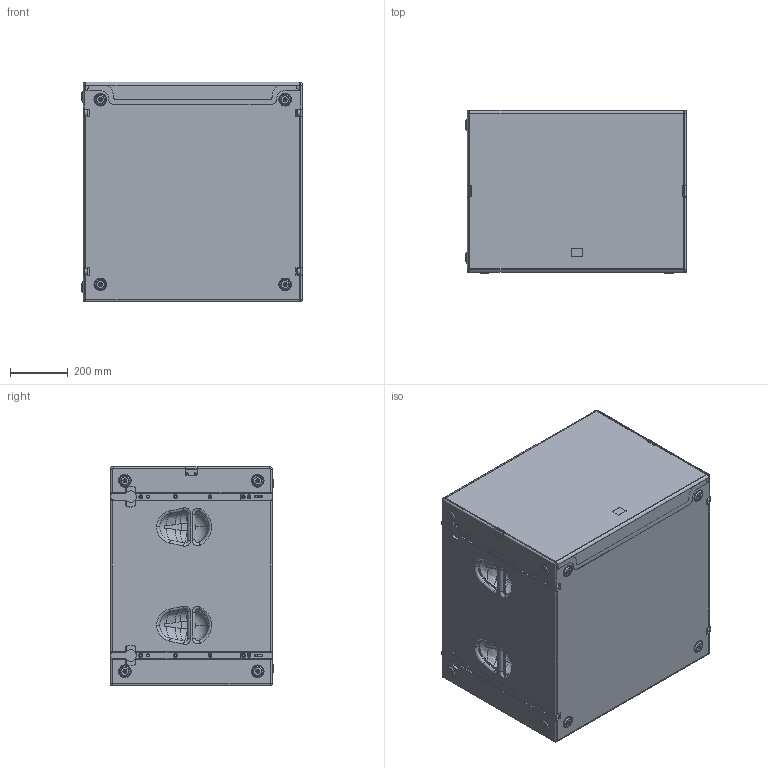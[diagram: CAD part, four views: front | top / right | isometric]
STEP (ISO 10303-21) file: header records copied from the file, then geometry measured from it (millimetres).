
FILE_DESCRIPTION (( 'STEP AP203' ), '1' );
FILE_NAME ('SEEBURG_Galeo-T-Sub.STEP', '2016-02-25T09:44:45', ( 'Michael Anter' ), ( 'SEEBURG acoustic line GmbH' ), 'SwSTEP 2.0', 'SolidWorks 2009', '' );
FILE_SCHEMA (( 'CONFIG_CONTROL_DESIGN' ));
Products named in the file (1): SEEBURG_Galeo-T-Sub
Bounding box: 765 x 565 x 760.5 mm (x, y, z)
Volume: 36414280 mm3; surface area: 6894912.4 mm2
Topology: 55 solids, 55 shells, 2186 faces, 5578 edges, 3512 vertices
Faces by surface type: cylinder 882, plane 864, cone 220, torus 140, bspline 60, sphere 20
Entity records: 71561 total; most frequent: CARTESIAN_POINT 16809, DIRECTION 11954, ORIENTED_EDGE 11100, EDGE_CURVE 5550, AXIS2_PLACEMENT_3D 4417, VERTEX_POINT 3512, LINE 3120, VECTOR 3120
